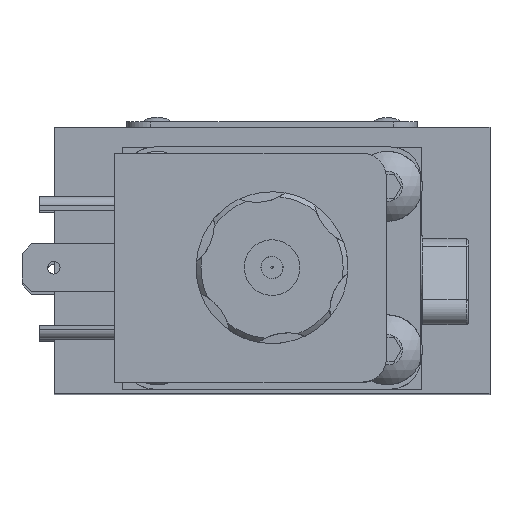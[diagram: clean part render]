
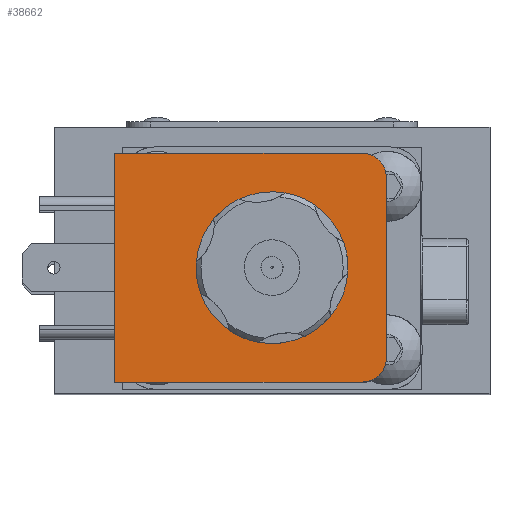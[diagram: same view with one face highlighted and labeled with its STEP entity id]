
A CAD part, top view. The second image highlights one B-rep face of the part: STEP entity #38662.
In plain terms, the highlighted planar face has unit normal (0, 0, 1).
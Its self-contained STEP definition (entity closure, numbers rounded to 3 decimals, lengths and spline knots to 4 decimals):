
#1354=FACE_BOUND('',#5000,.T.);
#1694=PLANE('',#41016);
#2736=FACE_OUTER_BOUND('',#4999,.T.);
#4999=EDGE_LOOP('',(#24744,#24745,#24746,#24747,#24748,#24749));
#5000=EDGE_LOOP('',(#24750));
#7556=CIRCLE('',#41010,0.3175);
#7557=CIRCLE('',#41013,0.3175);
#7558=CIRCLE('',#41017,0.9957);
#9648=LINE('',#56569,#12511);
#9651=LINE('',#56577,#12514);
#9652=LINE('',#56580,#12515);
#9654=LINE('',#56583,#12517);
#12511=VECTOR('',#45380,1.);
#12514=VECTOR('',#45389,1.);
#12515=VECTOR('',#45392,1.);
#12517=VECTOR('',#45396,1.);
#15380=VERTEX_POINT('',#56561);
#15381=VERTEX_POINT('',#56563);
#15382=VERTEX_POINT('',#56567);
#15383=VERTEX_POINT('',#56571);
#15384=VERTEX_POINT('',#56575);
#15385=VERTEX_POINT('',#56579);
#15386=VERTEX_POINT('',#56584);
#19033=EDGE_CURVE('',#15380,#15381,#7556,.T.);
#19036=EDGE_CURVE('',#15382,#15380,#9648,.T.);
#19037=EDGE_CURVE('',#15383,#15382,#7557,.T.);
#19040=EDGE_CURVE('',#15383,#15384,#9651,.T.);
#19041=EDGE_CURVE('',#15381,#15385,#9652,.T.);
#19043=EDGE_CURVE('',#15384,#15385,#9654,.T.);
#19044=EDGE_CURVE('',#15386,#15386,#7558,.T.);
#24744=ORIENTED_EDGE('',*,*,#19033,.F.);
#24745=ORIENTED_EDGE('',*,*,#19036,.F.);
#24746=ORIENTED_EDGE('',*,*,#19037,.F.);
#24747=ORIENTED_EDGE('',*,*,#19040,.T.);
#24748=ORIENTED_EDGE('',*,*,#19043,.T.);
#24749=ORIENTED_EDGE('',*,*,#19041,.F.);
#24750=ORIENTED_EDGE('',*,*,#19044,.T.);
#38662=ADVANCED_FACE('',(#2736,#1354),#1694,.T.);
#41010=AXIS2_PLACEMENT_3D('',#56564,#45374,#45375);
#41013=AXIS2_PLACEMENT_3D('',#56572,#45383,#45384);
#41016=AXIS2_PLACEMENT_3D('',#56582,#45394,#45395);
#41017=AXIS2_PLACEMENT_3D('',#56585,#45397,#45398);
#45374=DIRECTION('center_axis',(0.,0.,
-1.));
#45375=DIRECTION('ref_axis',(0.707,-0.707,0.));
#45380=DIRECTION('',(0.,-1.,0.));
#45383=DIRECTION('center_axis',(0.,0.,
-1.));
#45384=DIRECTION('ref_axis',(0.707,0.707,0.));
#45389=DIRECTION('',(-1.,0.,0.));
#45392=DIRECTION('',(-1.,0.,0.));
#45394=DIRECTION('center_axis',(0.,0.,
1.));
#45395=DIRECTION('ref_axis',(-1.,0.,0.));
#45396=DIRECTION('',(0.,-1.,0.));
#45397=DIRECTION('center_axis',(0.,0.,
-1.));
#45398=DIRECTION('ref_axis',(0.991,0.137,0.));
#56561=CARTESIAN_POINT('',(1.4986,-1.1825,12.4062));
#56563=CARTESIAN_POINT('',(1.1811,-1.5,12.4062));
#56564=CARTESIAN_POINT('Origin',(1.1811,-1.1825,12.4062));
#56567=CARTESIAN_POINT('',(1.4986,1.1825,12.4062));
#56569=CARTESIAN_POINT('',(1.4986,1.5,12.4062));
#56571=CARTESIAN_POINT('',(1.1811,1.5,12.4062));
#56572=CARTESIAN_POINT('Origin',(1.1811,1.1825,12.4062));
#56575=CARTESIAN_POINT('',(-2.0614,1.5,12.4062));
#56577=CARTESIAN_POINT('',(1.4986,1.5,12.4062));
#56579=CARTESIAN_POINT('',(-2.0614,-1.5,12.4062));
#56580=CARTESIAN_POINT('',(1.4986,-1.5,12.4062));
#56582=CARTESIAN_POINT('Origin',(1.4986,1.5,12.4062));
#56583=CARTESIAN_POINT('',(-2.0614,1.5,12.4062));
#56584=CARTESIAN_POINT('',(-0.9863,-0.1363,12.4062));
#56585=CARTESIAN_POINT('Origin',(0.,0.,
12.4062));
